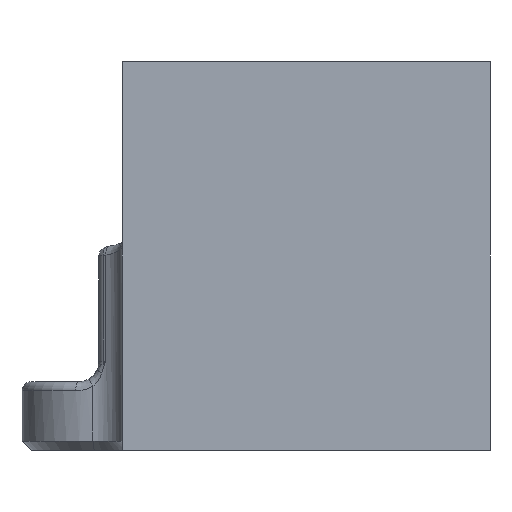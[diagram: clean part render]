
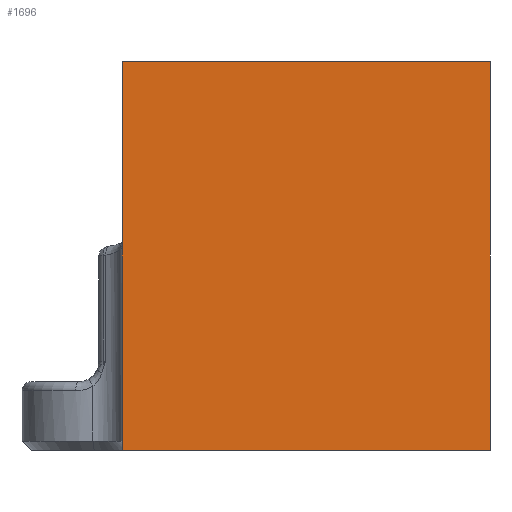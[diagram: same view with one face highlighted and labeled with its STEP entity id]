
A CAD part, left-side view. The second image highlights one B-rep face of the part: STEP entity #1696.
In plain terms, the highlighted planar face has unit normal (-1, 0, 0).
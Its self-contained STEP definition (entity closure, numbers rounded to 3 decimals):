
#92=PLANE('',#1898);
#296=FACE_OUTER_BOUND('',#406,.T.);
#406=EDGE_LOOP('',(#1493,#1494,#1495,#1496));
#466=LINE('',#3442,#521);
#475=LINE('',#4353,#530);
#477=LINE('',#4357,#532);
#478=LINE('',#4358,#533);
#521=VECTOR('',#2163,10.);
#530=VECTOR('',#2340,10.);
#532=VECTOR('',#2344,10.);
#533=VECTOR('',#2345,10.);
#722=VERTEX_POINT('',#3439);
#723=VERTEX_POINT('',#3441);
#777=VERTEX_POINT('',#4352);
#778=VERTEX_POINT('',#4356);
#928=EDGE_CURVE('',#722,#723,#466,.T.);
#1024=EDGE_CURVE('',#777,#723,#475,.T.);
#1026=EDGE_CURVE('',#778,#722,#477,.T.);
#1027=EDGE_CURVE('',#778,#777,#478,.T.);
#1493=ORIENTED_EDGE('',*,*,#1024,.T.);
#1494=ORIENTED_EDGE('',*,*,#928,.F.);
#1495=ORIENTED_EDGE('',*,*,#1026,.F.);
#1496=ORIENTED_EDGE('',*,*,#1027,.T.);
#1696=ADVANCED_FACE('',(#296),#92,.T.);
#1898=AXIS2_PLACEMENT_3D('',#4355,#2342,#2343);
#2163=DIRECTION('',(0.,0.,1.));
#2340=DIRECTION('',(0.,1.,0.));
#2342=DIRECTION('center_axis',(-1.,0.,0.));
#2343=DIRECTION('ref_axis',(0.,-1.,0.));
#2344=DIRECTION('',(0.,1.,0.));
#2345=DIRECTION('',(0.,0.,1.));
#3439=CARTESIAN_POINT('',(-10.95,40.2,0.));
#3441=CARTESIAN_POINT('',(-10.95,40.2,85.));
#3442=CARTESIAN_POINT('',(-10.95,40.2,0.));
#4352=CARTESIAN_POINT('',(-10.95,-40.2,85.));
#4353=CARTESIAN_POINT('',(-10.95,20.1,85.));
#4355=CARTESIAN_POINT('Origin',(-10.95,0.,0.));
#4356=CARTESIAN_POINT('',(-10.95,-40.2,0.));
#4357=CARTESIAN_POINT('',(-10.95,-40.2,0.));
#4358=CARTESIAN_POINT('',(-10.95,-40.2,0.));
